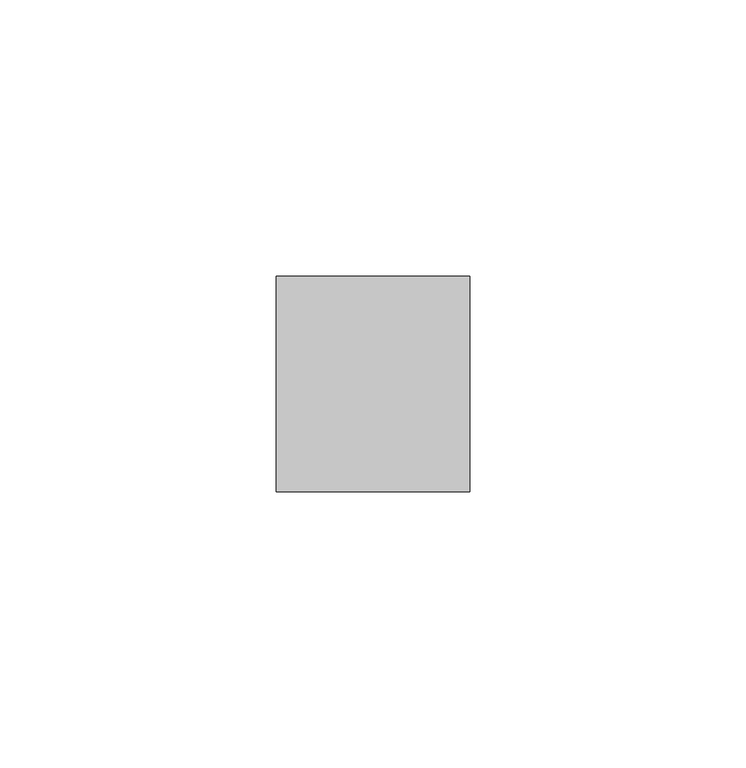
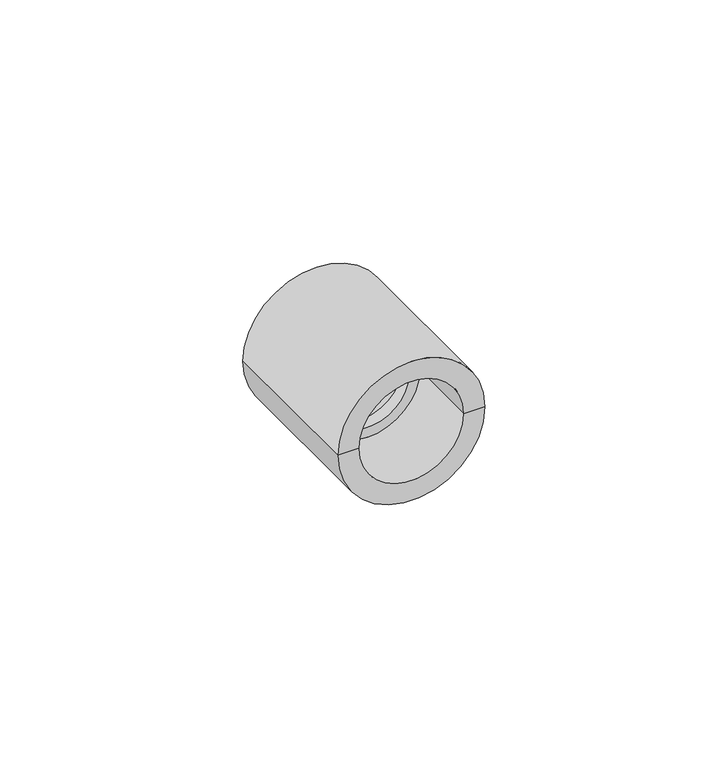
"""IFC4 building model written with IfcOpenShell, lengths in millimetres: pipe fitting geometry, NIRON RED termofusion manguito : Estándar."""

from ifc_helpers import new_model, si_unit, frame, origin, place, context, project, spatial, polyline, circle_curve, source, transform, mapped, element, save
from ifc_brep_helpers import plane_surface, cylinder_surface, revolved_surface, advanced_brep


def pipe_fitting_15d5d50c(model_context):
    return source(origin(), model_context, "Body", "AdvancedBrep", [
        advanced_brep(
        [(17.5, 39.0, 0.0), (-17.5, 39.0, 0.0), (-12.5, 39.0, 0.0), (12.5, 39.0, 0.0), (17.5, 0.0, 0.0), (-17.5, 0.0, 0.0), (12.5, 0.0, 0.0), (-12.5, 0.0, 0.0), (12.5, 18.0, 0.0), (-12.5, 18.0, 0.0), (10.0, 18.0, 0.0), (-10.0, 18.0, 0.0), (10.0, 21.0, 0.0), (-10.0, 21.0, 0.0), (12.5, 21.0, 0.0), (-12.5, 21.0, 0.0)],
        [
            (0, 1, circle_curve(frame((0.0, 39.0, 0.0), z_axis=(0.0, 1.0, 0.0), x_axis=(-1.0, 0.0, 0.0)), 17.5)),
            (1, 2),
            (2, 3, circle_curve(frame((0.0, 39.0, 0.0), z_axis=(0.0, -1.0, 0.0), x_axis=(-1.0, 0.0, 0.0)), 12.5)),
            (3, 0),
            (1, 0, circle_curve(frame((0.0, 39.0, 0.0), z_axis=(0.0, 1.0, 0.0), x_axis=(-1.0, 0.0, 0.0)), 17.5)),
            (3, 2, circle_curve(frame((0.0, 39.0, 0.0), z_axis=(0.0, -1.0, 0.0), x_axis=(-1.0, 0.0, 0.0)), 12.5)),
            (4, 5, circle_curve(frame((0.0, 0.0, 0.0), z_axis=(0.0, 1.0, 0.0), x_axis=(-1.0, 0.0, 0.0)), 17.5)),
            (5, 1),
            (0, 4),
            (5, 4, circle_curve(frame((0.0, 0.0, 0.0), z_axis=(0.0, 1.0, 0.0), x_axis=(-1.0, 0.0, 0.0)), 17.5)),
            (6, 7, circle_curve(frame((0.0, 0.0, 0.0), z_axis=(0.0, 1.0, 0.0), x_axis=(-1.0, 0.0, 0.0)), 12.5)),
            (7, 5),
            (4, 6),
            (7, 6, circle_curve(frame((0.0, 0.0, 0.0), z_axis=(0.0, 1.0, 0.0), x_axis=(-1.0, 0.0, 0.0)), 12.5)),
            (8, 9, circle_curve(frame((0.0, 18.0, 0.0), z_axis=(0.0, 1.0, 0.0), x_axis=(-1.0, 0.0, 0.0)), 12.5)),
            (9, 7),
            (6, 8),
            (9, 8, circle_curve(frame((0.0, 18.0, 0.0), z_axis=(0.0, 1.0, 0.0), x_axis=(-1.0, 0.0, 0.0)), 12.5)),
            (10, 11, circle_curve(frame((0.0, 18.0, 0.0), z_axis=(0.0, 1.0, 0.0), x_axis=(-1.0, 0.0, 0.0)), 10.0)),
            (11, 9),
            (8, 10),
            (11, 10, circle_curve(frame((0.0, 18.0, 0.0), z_axis=(0.0, 1.0, 0.0), x_axis=(-1.0, 0.0, 0.0)), 10.0)),
            (12, 13, circle_curve(frame((0.0, 21.0, 0.0), z_axis=(0.0, 1.0, 0.0), x_axis=(-1.0, 0.0, 0.0)), 10.0)),
            (13, 11),
            (10, 12),
            (13, 12, circle_curve(frame((0.0, 21.0, 0.0), z_axis=(0.0, 1.0, 0.0), x_axis=(-1.0, 0.0, 0.0)), 10.0)),
            (14, 15, circle_curve(frame((0.0, 21.0, 0.0), z_axis=(0.0, 1.0, 0.0), x_axis=(-1.0, 0.0, 0.0)), 12.5)),
            (15, 13),
            (12, 14),
            (15, 14, circle_curve(frame((0.0, 21.0, 0.0), z_axis=(0.0, 1.0, 0.0), x_axis=(-1.0, 0.0, 0.0)), 12.5)),
            (2, 15),
            (14, 3),
        ],
        [
            plane_surface(frame((0.0, 39.0, 0.0), z_axis=(0.0, 1.0, 0.0), x_axis=(-1.0, 0.0, 0.0))),
            cylinder_surface(frame((0.0, 64.0, 0.0), z_axis=(0.0, -1.0, 0.0), x_axis=(-1.0, 0.0, 0.0)), 17.5),
            plane_surface(frame((0.0, 0.0, 0.0), z_axis=(0.0, -1.0, 0.0), x_axis=(-1.0, 0.0, 0.0))),
            revolved_surface(polyline([(-12.5, 0.0, 0.0), (-12.5, 18.0, 0.0)]), (0.0, 64.0, 0.0), (0.0, -1.0, 0.0)),
            plane_surface(frame((0.0, 18.0, 0.0), z_axis=(0.0, -1.0, 0.0), x_axis=(-1.0, 0.0, 0.0))),
            revolved_surface(polyline([(-10.0, 18.0, 0.0), (-10.0, 21.0, 0.0)]), (0.0, 64.0, 0.0), (0.0, -1.0, 0.0)),
            plane_surface(frame((0.0, 21.0, 0.0), z_axis=(0.0, 1.0, 0.0), x_axis=(-1.0, 0.0, 0.0))),
            revolved_surface(polyline([(-12.5, 21.0, 0.0), (-12.5, 39.0, 0.0)]), (0.0, 64.0, 0.0), (0.0, -1.0, 0.0)),
        ],
        [
            (0, [[1, 2, 3, 4]]),
            (0, [[5, -4, 6, -2]]),
            (1, [[7, 8, -1, 9]]),
            (1, [[10, -9, -5, -8]]),
            (2, [[11, 12, -7, 13]]),
            (2, [[14, -13, -10, -12]]),
            (3, [[15, 16, -11, 17]]),
            (3, [[18, -17, -14, -16]]),
            (4, [[19, 20, -15, 21]]),
            (4, [[22, -21, -18, -20]]),
            (5, [[23, 24, -19, 25]]),
            (5, [[26, -25, -22, -24]]),
            (6, [[27, 28, -23, 29]]),
            (6, [[30, -29, -26, -28]]),
            (7, [[-3, 31, -27, 32]]),
            (7, [[-6, -32, -30, -31]]),
        ],
    ),
    ])


if __name__ == "__main__":
    model = new_model("IFC4")
    model_context = context("Model", 3, world=origin())
    ifc_project = project(units=[si_unit("LENGTHUNIT", "METRE", prefix="MILLI")], contexts=[model_context])
    site = spatial("IfcSite", under=ifc_project)
    building = spatial("IfcBuilding", under=site)
    placement = place(None, origin())
    pipe_fitting_shape = pipe_fitting_15d5d50c(model_context)
    element("IfcPipeFitting", 1, ObjectType="NIRON RED termofusion manguito : Estándar", at=placement, inside=building, context=model_context, shape_type="MappedRepresentation", body=[
        mapped(pipe_fitting_shape, transform((0.0, 0.0, 0.0), x_axis=(1.0, 0.0, 0.0), y_axis=(0.0, 1.0, 0.0), z_axis=(0.0, 0.0, 1.0))),
    ])
    save(model, "model.ifc")
